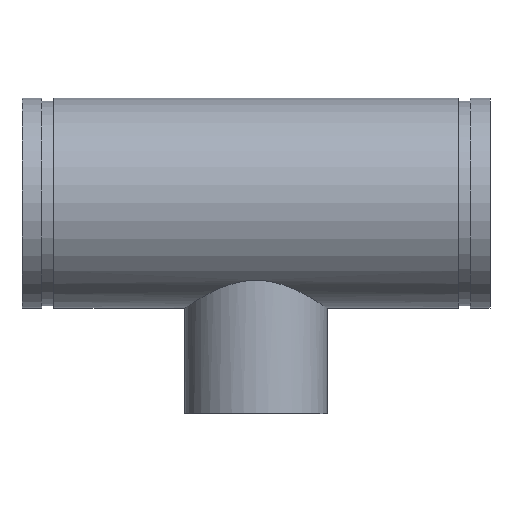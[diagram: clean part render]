
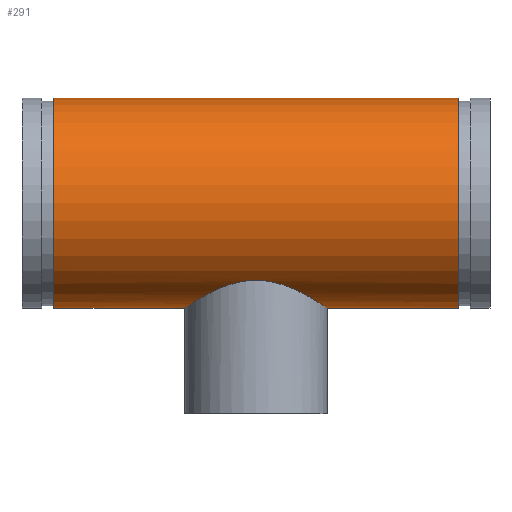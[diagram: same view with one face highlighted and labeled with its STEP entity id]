
A CAD part, top view. The second image highlights one B-rep face of the part: STEP entity #291.
In plain terms, the highlighted cylindrical face has radius 84.138 mm (diameter 168.275 mm), a full revolution.
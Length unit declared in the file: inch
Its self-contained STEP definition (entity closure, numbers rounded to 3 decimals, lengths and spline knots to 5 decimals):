
#45=B_SPLINE_CURVE_WITH_KNOTS('',3,(#511,#512,#513,#514,#515,#516,#517,
#518,#519,#520,#521,#522,#523,#524,#525,#526,#527,#528,#529,#530,#531,#532,
#533,#534,#535,#536,#537,#538,#539,#540,#541,#542,#543,#544,#545,#546,#547,
#548,#549,#550,#551,#552,#553,#554,#555,#556,#557,#558,#559,#560),
 .UNSPECIFIED.,.F.,.F.,(4,2,2,2,2,2,2,2,2,2,2,2,2,2,2,2,2,2,2,2,2,2,2,2,
4),(0.,1.13036,2.26072,3.39108,4.52144,
5.63808,6.75471,7.87135,8.98799,10.10462,
11.22126,12.3379,13.45453,14.58489,15.71525,
16.84561,17.97597,19.10633,20.2367,21.36706,
22.49742,23.61405,24.73069,25.84733,26.96396),
 .UNSPECIFIED.);
#46=B_SPLINE_CURVE_WITH_KNOTS('',3,(#561,#562,#563,#564,#565,#566,#567,
#568,#569,#570,#571,#572,#573,#574,#575,#576,#577,#578),.UNSPECIFIED.,.F.,
 .F.,(4,2,2,2,2,2,2,2,4),(26.96396,28.0806,29.19723,
30.31387,31.43051,32.56087,33.69123,34.82159,
35.95195),.UNSPECIFIED.);
#51=LINE('',#508,#59);
#59=VECTOR('',#410,3.3125);
#67=CYLINDRICAL_SURFACE('',#338,3.3125);
#77=FACE_BOUND('',#108,.T.);
#88=FACE_OUTER_BOUND('',#107,.T.);
#107=EDGE_LOOP('',(#221,#222,#223,#224));
#108=EDGE_LOOP('',(#225,#226));
#121=CIRCLE('',#321,3.3125);
#132=CIRCLE('',#337,3.3125);
#141=VERTEX_POINT('',#476);
#152=VERTEX_POINT('',#505);
#153=VERTEX_POINT('',#509);
#154=VERTEX_POINT('',#510);
#165=EDGE_CURVE('',#141,#141,#121,.T.);
#178=EDGE_CURVE('',#152,#152,#132,.T.);
#179=EDGE_CURVE('',#152,#141,#51,.T.);
#180=EDGE_CURVE('',#153,#154,#45,.T.);
#181=EDGE_CURVE('',#154,#153,#46,.T.);
#221=ORIENTED_EDGE('',*,*,#178,.T.);
#222=ORIENTED_EDGE('',*,*,#179,.T.);
#223=ORIENTED_EDGE('',*,*,#165,.T.);
#224=ORIENTED_EDGE('',*,*,#179,.F.);
#225=ORIENTED_EDGE('',*,*,#180,.F.);
#226=ORIENTED_EDGE('',*,*,#181,.F.);
#291=ADVANCED_FACE('',(#88,#77),#67,.T.);
#321=AXIS2_PLACEMENT_3D('',#477,#372,#373);
#337=AXIS2_PLACEMENT_3D('',#506,#406,#407);
#338=AXIS2_PLACEMENT_3D('',#507,#408,#409);
#372=DIRECTION('center_axis',(-1.,0.,0.));
#373=DIRECTION('ref_axis',(0.,-1.,0.));
#406=DIRECTION('center_axis',(1.,0.,0.));
#407=DIRECTION('ref_axis',(0.,-1.,0.));
#408=DIRECTION('center_axis',(-1.,0.,0.));
#409=DIRECTION('ref_axis',(0.,-1.,0.));
#410=DIRECTION('',(1.,0.,0.));
#476=CARTESIAN_POINT('',(6.38,3.3125,0.));
#477=CARTESIAN_POINT('Origin',(6.38,0.,0.));
#505=CARTESIAN_POINT('',(-6.38,3.3125,0.));
#506=CARTESIAN_POINT('Origin',(-6.38,0.,0.));
#507=CARTESIAN_POINT('Origin',(7.38,0.,0.));
#508=CARTESIAN_POINT('',(7.38,3.3125,0.));
#509=CARTESIAN_POINT('',(0.,-2.43108,-2.25));
#510=CARTESIAN_POINT('',(-2.25,-3.3125,0.));
#511=CARTESIAN_POINT('Ctrl Pts',(0.,-2.43108,
-2.25));
#512=CARTESIAN_POINT('Ctrl Pts',(0.14834,-2.43108,-2.25));
#513=CARTESIAN_POINT('Ctrl Pts',(0.29879,-2.44508,-2.23514));
#514=CARTESIAN_POINT('Ctrl Pts',(0.59355,-2.49829,-2.1755));
#515=CARTESIAN_POINT('Ctrl Pts',(0.7379,-2.53732,-2.13077));
#516=CARTESIAN_POINT('Ctrl Pts',(1.01221,-2.63022,-2.01497));
#517=CARTESIAN_POINT('Ctrl Pts',(1.14247,-2.68403,-1.9438));
#518=CARTESIAN_POINT('Ctrl Pts',(1.38295,-2.79488,-1.78074));
#519=CARTESIAN_POINT('Ctrl Pts',(1.49317,-2.85185,-1.68881));
#520=CARTESIAN_POINT('Ctrl Pts',(1.68762,-2.95832,-1.49436));
#521=CARTESIAN_POINT('Ctrl Pts',(1.77933,-3.01197,-1.38478));
#522=CARTESIAN_POINT('Ctrl Pts',(1.94278,-3.11132,-1.14423));
#523=CARTESIAN_POINT('Ctrl Pts',(2.01452,-3.15697,-1.01324));
#524=CARTESIAN_POINT('Ctrl Pts',(2.13107,-3.23259,-0.73721));
#525=CARTESIAN_POINT('Ctrl Pts',(2.17598,-3.2626,-0.59187));
#526=CARTESIAN_POINT('Ctrl Pts',(2.23545,-3.30256,-0.29654));
#527=CARTESIAN_POINT('Ctrl Pts',(2.25,-3.3125,-0.14654));
#528=CARTESIAN_POINT('Ctrl Pts',(2.25,-3.3125,0.14654));
#529=CARTESIAN_POINT('Ctrl Pts',(2.23545,-3.30256,0.29654));
#530=CARTESIAN_POINT('Ctrl Pts',(2.17598,-3.2626,0.59187));
#531=CARTESIAN_POINT('Ctrl Pts',(2.13107,-3.23259,0.73721));
#532=CARTESIAN_POINT('Ctrl Pts',(2.01452,-3.15697,1.01324));
#533=CARTESIAN_POINT('Ctrl Pts',(1.94278,-3.11132,1.14423));
#534=CARTESIAN_POINT('Ctrl Pts',(1.77933,-3.01197,1.38478));
#535=CARTESIAN_POINT('Ctrl Pts',(1.68762,-2.95832,1.49436));
#536=CARTESIAN_POINT('Ctrl Pts',(1.49317,-2.85185,1.68881));
#537=CARTESIAN_POINT('Ctrl Pts',(1.38295,-2.79488,1.78074));
#538=CARTESIAN_POINT('Ctrl Pts',(1.14247,-2.68403,1.9438));
#539=CARTESIAN_POINT('Ctrl Pts',(1.01221,-2.63022,2.01497));
#540=CARTESIAN_POINT('Ctrl Pts',(0.7379,-2.53732,2.13077));
#541=CARTESIAN_POINT('Ctrl Pts',(0.59355,-2.49829,2.1755));
#542=CARTESIAN_POINT('Ctrl Pts',(0.29879,-2.44508,2.23514));
#543=CARTESIAN_POINT('Ctrl Pts',(0.14834,-2.43108,2.25));
#544=CARTESIAN_POINT('Ctrl Pts',(-0.14834,-2.43108,2.25));
#545=CARTESIAN_POINT('Ctrl Pts',(-0.29879,-2.44508,2.23514));
#546=CARTESIAN_POINT('Ctrl Pts',(-0.59355,-2.49829,2.1755));
#547=CARTESIAN_POINT('Ctrl Pts',(-0.7379,-2.53732,2.13077));
#548=CARTESIAN_POINT('Ctrl Pts',(-1.01221,-2.63022,2.01497));
#549=CARTESIAN_POINT('Ctrl Pts',(-1.14247,-2.68403,1.9438));
#550=CARTESIAN_POINT('Ctrl Pts',(-1.38295,-2.79488,1.78074));
#551=CARTESIAN_POINT('Ctrl Pts',(-1.49317,-2.85185,1.68881));
#552=CARTESIAN_POINT('Ctrl Pts',(-1.68762,-2.95832,1.49436));
#553=CARTESIAN_POINT('Ctrl Pts',(-1.77933,-3.01197,1.38478));
#554=CARTESIAN_POINT('Ctrl Pts',(-1.94278,-3.11132,1.14423));
#555=CARTESIAN_POINT('Ctrl Pts',(-2.01452,-3.15697,1.01324));
#556=CARTESIAN_POINT('Ctrl Pts',(-2.13107,-3.23259,0.73721));
#557=CARTESIAN_POINT('Ctrl Pts',(-2.17598,-3.2626,0.59187));
#558=CARTESIAN_POINT('Ctrl Pts',(-2.23545,-3.30256,0.29654));
#559=CARTESIAN_POINT('Ctrl Pts',(-2.25,-3.3125,0.14654));
#560=CARTESIAN_POINT('Ctrl Pts',(-2.25,-3.3125,0.));
#561=CARTESIAN_POINT('Ctrl Pts',(-2.25,-3.3125,0.));
#562=CARTESIAN_POINT('Ctrl Pts',(-2.25,-3.3125,-0.14654));
#563=CARTESIAN_POINT('Ctrl Pts',(-2.23545,-3.30256,-0.29654));
#564=CARTESIAN_POINT('Ctrl Pts',(-2.17598,-3.2626,-0.59187));
#565=CARTESIAN_POINT('Ctrl Pts',(-2.13107,-3.23259,-0.73721));
#566=CARTESIAN_POINT('Ctrl Pts',(-2.01452,-3.15697,-1.01324));
#567=CARTESIAN_POINT('Ctrl Pts',(-1.94278,-3.11132,-1.14423));
#568=CARTESIAN_POINT('Ctrl Pts',(-1.77933,-3.01197,-1.38478));
#569=CARTESIAN_POINT('Ctrl Pts',(-1.68762,-2.95832,-1.49436));
#570=CARTESIAN_POINT('Ctrl Pts',(-1.49317,-2.85185,-1.68881));
#571=CARTESIAN_POINT('Ctrl Pts',(-1.38295,-2.79488,-1.78074));
#572=CARTESIAN_POINT('Ctrl Pts',(-1.14247,-2.68403,-1.9438));
#573=CARTESIAN_POINT('Ctrl Pts',(-1.01221,-2.63022,-2.01497));
#574=CARTESIAN_POINT('Ctrl Pts',(-0.7379,-2.53732,-2.13077));
#575=CARTESIAN_POINT('Ctrl Pts',(-0.59355,-2.49829,-2.1755));
#576=CARTESIAN_POINT('Ctrl Pts',(-0.29879,-2.44508,-2.23514));
#577=CARTESIAN_POINT('Ctrl Pts',(-0.14834,-2.43108,-2.25));
#578=CARTESIAN_POINT('Ctrl Pts',(0.,-2.43108,
-2.25));
